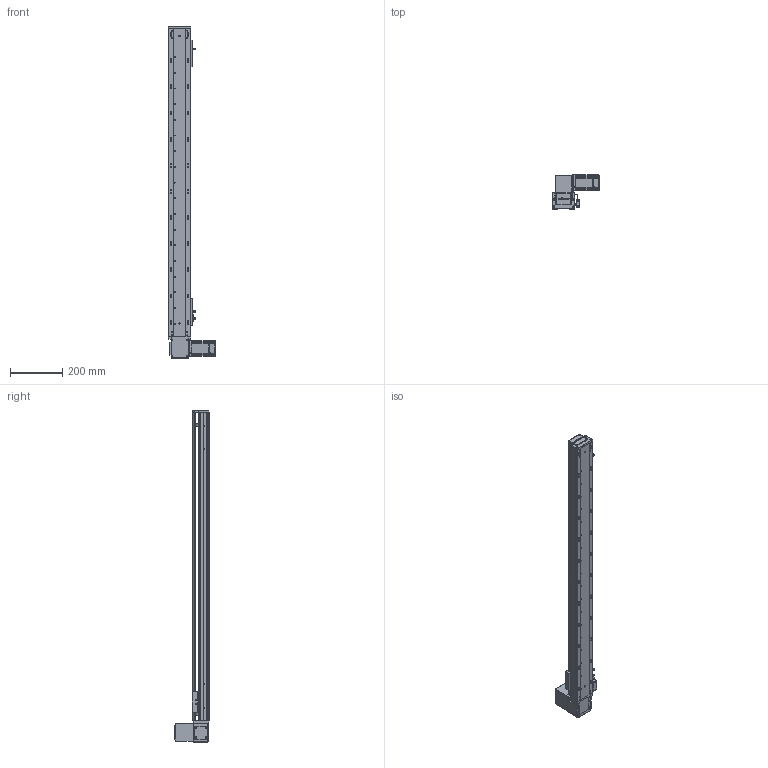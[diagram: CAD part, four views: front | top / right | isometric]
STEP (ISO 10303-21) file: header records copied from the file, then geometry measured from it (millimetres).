
FILE_DESCRIPTION (( 'STEP AP203' ), '1' );
FILE_NAME ('RY80-T-300-UR.SLDASM_1000.step', '2021-03-01T02:26:43', ( '盈信电脑' ), ( '东莞市道滘镇水果街19号' ), 'SwSTEP 2.0', 'SolidWorks 2012', '' );
FILE_SCHEMA (( 'CONFIG_CONTROL_DESIGN' ));
Length unit declared in the file: millimetre
Products named in the file (20): RY80-T-300-UR倰第奻裔啣_1000; RY80-T肮祭謫臏賑輸; RY80-T-300-UR倰第菁釱_1000; RY80-T-300-UR.SLDASM_1000; RY80-T-M4蹟翐2; RY80-T萇儂假蚾啣; RY80-T肮祭謫奻殏俋欶; RY80-T翋肮祭謫裔啣; RY80-T-上下折同步轮盖板; 1; RY100-T粣創揤踡裔; RY80-T肮祭湍揤輸2; 滅袉蝶18-10; RY80-T粣創揤踡輸; RY80-T-翋肮祭謫釱; 覜茼ん672; RY80-T肮祭湍揤輸1; RY80俋离覜茼え; 672嫖萇羲壽假蚾釱; RY80-T綴裔啣
Assembly tree (23 placements, depth 2):
  RY80-T-300-UR.SLDASM_1000
    RY80-T-300-UR倰第菁釱_1000
    RY80-T肮祭謫臏賑輸
    RY80-T-300-UR倰第奻裔啣_1000
    RY80-T綴裔啣
    672嫖萇羲壽假蚾釱  x2
    覜茼ん672  x3
    RY80俋离覜茼え
    RY80-T-翋肮祭謫釱
    RY80-T肮祭湍揤輸1
    RY80-T肮祭湍揤輸2
    RY80-T粣創揤踡輸
    滅袉蝶18-10  x2
    RY100-T粣創揤踡裔
    RY80-T翋肮祭謫裔啣
    RY80-T-上下折同步轮盖板
    1
    RY80-T肮祭謫奻殏俋欶
    RY80-T-M4蹟翐2
    RY80-T萇儂假蚾啣
Bounding box: 180 x 130.5 x 1270 mm (x, y, z)
Volume: 2184612.9 mm3; surface area: 917956.6 mm2
Topology: 23 solids, 23 shells, 2667 faces, 7401 edges, 4812 vertices
Faces by surface type: plane 1379, cylinder 1087, cone 145, bspline 56
Entity records: 87156 total; most frequent: CARTESIAN_POINT 22298, ORIENTED_EDGE 13446, DIRECTION 12438, EDGE_CURVE 6723, VERTEX_POINT 4416, AXIS2_PLACEMENT_3D 4236, VECTOR 3966, LINE 3966
